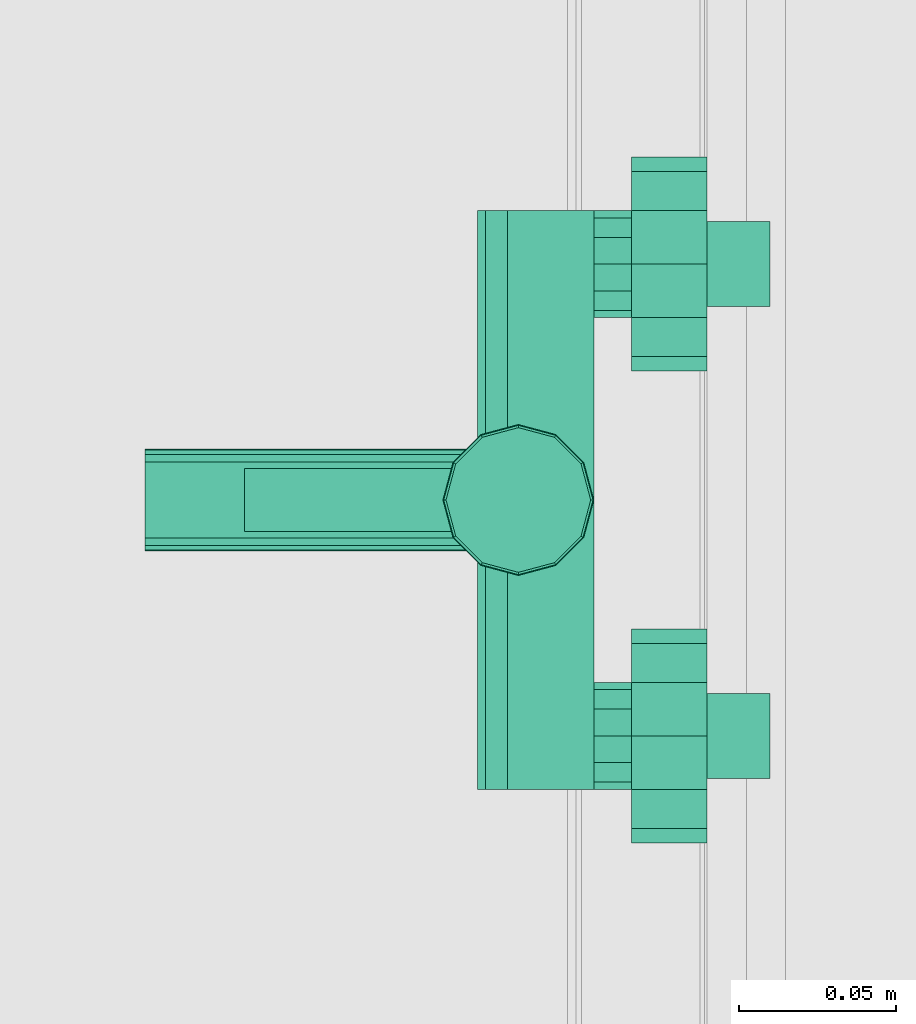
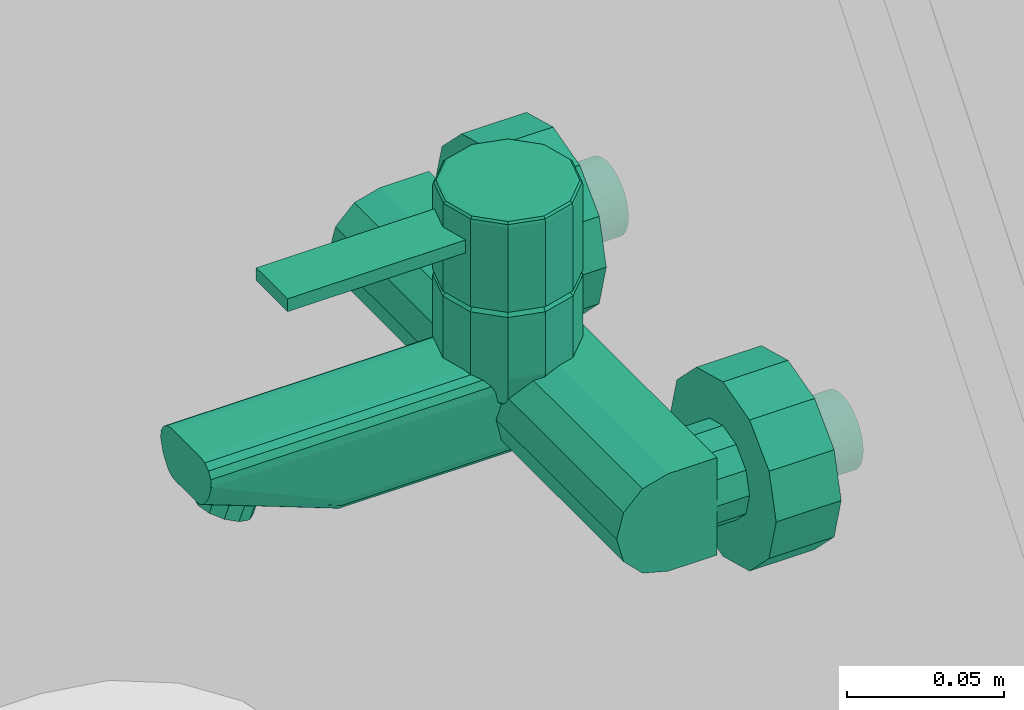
# One storey, part 111 of 137: 1 flow storage device.
"""IFC2X3 building model written with IfcOpenShell, lengths in millimetres."""

import ifcopenshell
import ifcopenshell.guid

model = None  # the IFC model being written
_history = None  # IfcOwnerHistory: only IFC2X3 demands one
_inside = {}  # id of a spatial element -> (the spatial element, [elements in it])
_under = {}  # id of a project, library or spatial element -> (it, [spatial elements below it])
_declared = {}  # id of a project -> (the project, [libraries it declares])
_typed = {}  # id of a type object -> (the type object, [elements of that type])
_made_of = {}  # id of a material, layer set ... -> (it, [elements and type objects made of it])


def new_model(schema):
    """Start an empty IFC model of exactly this schema.

    Asked for "IFC4X3", IfcOpenShell would pick the latest addendum, in which some entities
    have other attributes; the version numbers below select the first issue.
    IFC2X3 requires an IfcOwnerHistory on every rooted entity: one is made here for all.
    """
    global model, _history
    if schema == "IFC4X3":
        model = ifcopenshell.file(schema_version=(4, 3, 0, 0))
    else:
        model = ifcopenshell.file(schema=schema)
    _inside.clear()
    _under.clear()
    _declared.clear()
    _typed.clear()
    _made_of.clear()
    _history = None
    if model.schema == "IFC2X3":
        org = make("IfcOrganization", Name="unknown")
        user = make(
            "IfcPersonAndOrganization",
            ThePerson=make("IfcPerson", FamilyName="unknown"),
            TheOrganization=org,
        )
        app = make(
            "IfcApplication",
            ApplicationDeveloper=org,
            Version="unknown",
            ApplicationFullName="unknown",
            ApplicationIdentifier="unknown",
        )
        _history = make(
            "IfcOwnerHistory",
            OwningUser=user,
            OwningApplication=app,
            ChangeAction="ADDED",
            CreationDate=0,
        )
    return model


def make(cls, **values):
    """One entity of the class cls with the attributes given. An attribute that is None is left unset."""
    return model.create_entity(
        cls, **{name: value for name, value in values.items() if value is not None}
    )


def entity(cls, *values):
    """Any entity or typed value of the class cls, its attributes in the order of the schema. None: left unset."""
    e = model.create_entity(cls)
    for i, value in enumerate(values):
        if value is not None:
            e[i] = value
    return e


def rooted(cls, **values):
    """An entity with a GlobalId (a new one), such as an element, a storey or a relation."""
    return make(cls, GlobalId=ifcopenshell.guid.new(), OwnerHistory=_history, **values)


def si_unit(unit_type, name, prefix=None):
    """IfcSIUnit, for example si_unit("LENGTHUNIT", "METRE", prefix="MILLI")."""
    return make("IfcSIUnit", UnitType=unit_type, Prefix=prefix, Name=name)


def converted_unit(unit_type, name, factor, base, dimensions=None, offset=None):
    """IfcConversionBasedUnit, such as the inch: factor (a typed value) times the base unit."""
    return make(
        "IfcConversionBasedUnit"
        if offset is None
        else "IfcConversionBasedUnitWithOffset",
        ConversionOffset=offset,
        Dimensions=None
        if dimensions is None
        else entity("IfcDimensionalExponents", *dimensions),
        UnitType=unit_type,
        Name=name,
        ConversionFactor=make(
            "IfcMeasureWithUnit", ValueComponent=factor, UnitComponent=base
        ),
    )


def derived_unit(unit_type, elements):
    """IfcDerivedUnit: a product of units, each with its exponent."""
    return make(
        "IfcDerivedUnit",
        Elements=[
            make("IfcDerivedUnitElement", Unit=unit, Exponent=power)
            for unit, power in elements
        ],
        UnitType=unit_type,
    )


def money_unit(currency):
    """IfcMonetaryUnit."""
    return make("IfcMonetaryUnit", Currency=currency)


def assignment(units):
    """IfcUnitAssignment: the units of a project."""
    return None if units is None else make("IfcUnitAssignment", Units=units)


def point(xyz):
    """IfcCartesianPoint."""
    return None if xyz is None else make("IfcCartesianPoint", Coordinates=xyz)


def direction(xyz):
    """IfcDirection."""
    return None if xyz is None else make("IfcDirection", DirectionRatios=xyz)


def frame(location, z_axis=None, x_axis=None):
    """IfcAxis2Placement3D, a coordinate frame: its origin and axes. An axis left out is left unset."""
    return make(
        "IfcAxis2Placement3D",
        Location=point(location),
        Axis=direction(z_axis),
        RefDirection=direction(x_axis),
    )


def origin_with_axes():
    """The frame at (0, 0, 0) with the z axis (0, 0, 1) and the x axis (1, 0, 0) written out."""
    return frame((0.0, 0.0, 0.0), z_axis=(0.0, 0.0, 1.0), x_axis=(1.0, 0.0, 0.0))


def place(relative_to, where):
    """IfcLocalPlacement: puts the frame where relative to a parent placement (None: the world)."""
    return make(
        "IfcLocalPlacement", PlacementRelTo=relative_to, RelativePlacement=where
    )


def context(
    kind, dimensions, precision=None, world=None, true_north=None, identifier=None
):
    """IfcGeometricRepresentationContext, for example the 3D "Model" context."""
    return make(
        "IfcGeometricRepresentationContext",
        ContextIdentifier=identifier,
        ContextType=kind,
        CoordinateSpaceDimension=dimensions,
        Precision=precision,
        WorldCoordinateSystem=world,
        TrueNorth=true_north,
    )


def subcontext(parent, identifier, kind, view, scale=None):
    """IfcGeometricRepresentationSubContext, for example "Body" below "Model"."""
    return make(
        "IfcGeometricRepresentationSubContext",
        ContextIdentifier=identifier,
        ContextType=kind,
        ParentContext=parent,
        TargetScale=scale,
        TargetView=view,
    )


def project(units=None, contexts=None):
    """IfcProject with its units and contexts."""
    return rooted(
        "IfcProject",
        Name="project",
        RepresentationContexts=contexts,
        UnitsInContext=assignment(units),
    )


def spatial(cls, under=None, at=None, **own):
    """A site, building, storey or space (cls), placed at a placement, below another one or the project."""
    s = rooted(cls, ObjectPlacement=at, **own)
    if under is not None:
        _under.setdefault(under.id(), (under, []))[1].append(s)
    return s


def faces_of(points, faces, orient=None, outer=None):
    """IfcFace entities. A face is a list of loops; a loop is a list of indices into points, from 0.

    orient and outer hold one flag for each loop. By default every Orientation is true, the
    first loop of a face is its IfcFaceOuterBound and the others are IfcFaceBound.
    """
    made = []
    for i, loops in enumerate(faces):
        bounds = []
        for j, loop in enumerate(loops):
            is_outer = j == 0 if outer is None else outer[i][j]
            bounds.append(
                make(
                    "IfcFaceOuterBound" if is_outer else "IfcFaceBound",
                    Bound=make("IfcPolyLoop", Polygon=[points[k] for k in loop]),
                    Orientation=True if orient is None else orient[i][j],
                )
            )
        made.append(make("IfcFace", Bounds=bounds))
    return made


def open_shell(faces, orient=None, outer=None):
    """The faces of one IfcOpenShell. surface_model builds it on its shared points."""
    return ("IfcOpenShell", faces, orient, outer)


def faceted_brep(points, faces, orient=None, outer=None, voids=None):
    """IfcFacetedBrep: a solid bounded by flat faces; with voids (closed shells), ...WithVoids."""
    shared = [point(p) for p in points]
    hull = make("IfcClosedShell", CfsFaces=faces_of(shared, faces, orient, outer))
    if voids is None:
        return make("IfcFacetedBrep", Outer=hull)
    return make(
        "IfcFacetedBrepWithVoids",
        Outer=hull,
        Voids=[
            make(cls, CfsFaces=faces_of(shared, fs, o, b)) for cls, fs, o, b in voids
        ],
    )


def surface_model(cls, points, shells):
    """IfcFaceBasedSurfaceModel or IfcShellBasedSurfaceModel (cls): surfaces that need not close."""
    shared = [point(p) for p in points]
    made = [make(c, CfsFaces=faces_of(shared, fs, o, b)) for c, fs, o, b in shells]
    if cls == "IfcFaceBasedSurfaceModel":
        return make(cls, FbsmFaces=made)
    return make(cls, SbsmBoundary=made)


def shape(context_of_items, identifier, shape_type, items):
    """IfcShapeRepresentation: the items that make up one representation, for example the "Body"."""
    return make(
        "IfcShapeRepresentation",
        ContextOfItems=context_of_items,
        RepresentationIdentifier=identifier,
        RepresentationType=shape_type,
        Items=items,
    )


def source(mapping_origin, context_of_items, identifier, shape_type, items):
    """IfcRepresentationMap: a shape defined once, which mapped items show again and again."""
    return make(
        "IfcRepresentationMap",
        MappingOrigin=mapping_origin,
        MappedRepresentation=shape(context_of_items, identifier, shape_type, items),
    )


def transform(
    local_origin,
    x_axis=None,
    y_axis=None,
    z_axis=None,
    scale=None,
    scale2=None,
    scale3=None,
    uniform=True,
):
    """IfcCartesianTransformationOperator3D, or its non-uniform kind. x_axis, y_axis, z_axis: its Axis1, 2, 3."""
    if uniform:
        return make(
            "IfcCartesianTransformationOperator3D",
            Axis1=direction(x_axis),
            Axis2=direction(y_axis),
            LocalOrigin=point(local_origin),
            Scale=scale,
            Axis3=direction(z_axis),
        )
    return make(
        "IfcCartesianTransformationOperator3DnonUniform",
        Axis1=direction(x_axis),
        Axis2=direction(y_axis),
        LocalOrigin=point(local_origin),
        Scale=scale,
        Axis3=direction(z_axis),
        Scale2=scale2,
        Scale3=scale3,
    )


def mapped(mapping_source, mapping_target):
    """IfcMappedItem: shows the shape of a source again, moved by a transform."""
    return make(
        "IfcMappedItem", MappingSource=mapping_source, MappingTarget=mapping_target
    )


def made_of(thing, what):
    """Note that an element or type object is made of a material, layer set ...; save() writes the relation."""
    if what is not None:
        _made_of.setdefault(what.id(), (what, []))[1].append(thing)
    return thing


def type_object(cls, material=None, **own):
    """A type object (cls), such as IfcWallType, which elements share."""
    return made_of(rooted(cls, **own), material)


def type_shapes(of_type, sources):
    """Give a type object the sources (RepresentationMaps) that its elements show as mapped items."""
    of_type.RepresentationMaps = sources


def element(
    cls,
    number,
    at=None,
    inside=None,
    cuts=None,
    type_object=None,
    material=None,
    context=None,
    identifier="Body",
    shape_type=None,
    held_by="IfcProductDefinitionShape",
    body=None,
    shapes=None,
    **own,
):
    """One element of the class cls, such as IfcWall. Its Tag is "e" and its number.

    at: its placement. inside: the storey or other place that contains it. cuts: it is an
    opening in that element (IfcRelVoidsElement). A single representation is given by context,
    identifier, shape_type and body (its items); several are given by shapes. held_by: the class
    of the entity that holds the representations. save() writes the other relations.
    """
    e = rooted(cls, Tag="e%d" % number, ObjectPlacement=at, **own)
    if body is not None:
        shapes = [shape(context, identifier, shape_type, body)]
    if shapes is not None:
        e.Representation = make(held_by, Representations=shapes)
    if inside is not None:
        _inside.setdefault(inside.id(), (inside, []))[1].append(e)
    if cuts is not None:
        rooted(
            "IfcRelVoidsElement", RelatingBuildingElement=cuts, RelatedOpeningElement=e
        )
    if type_object is not None:
        _typed.setdefault(type_object.id(), (type_object, []))[1].append(e)
    return made_of(e, material)


def aggregate(whole, parts):
    """IfcRelAggregates: a whole, such as a stair, and the parts it consists of."""
    return rooted("IfcRelAggregates", RelatingObject=whole, RelatedObjects=parts)


def save(model, path):
    """Write the relations noted so far, then the file.

    IfcRelAggregates (storeys below a building ...), IfcRelContainedInSpatialStructure (elements
    in a storey), IfcRelDefinesByType, IfcRelAssociatesMaterial and IfcRelDeclares: one each for
    every whole, place, type object, material and project.
    """
    for whole, parts in _under.values():
        aggregate(whole, parts)
    for where, things in _inside.values():
        rooted(
            "IfcRelContainedInSpatialStructure",
            RelatedElements=things,
            RelatingStructure=where,
        )
    for kind, things in _typed.values():
        rooted("IfcRelDefinesByType", RelatedObjects=things, RelatingType=kind)
    for what, things in _made_of.values():
        rooted("IfcRelAssociatesMaterial", RelatedObjects=things, RelatingMaterial=what)
    for by, libraries in _declared.values():
        rooted("IfcRelDeclares", RelatingContext=by, RelatedDefinitions=libraries)
    model.write(path)


model = new_model("IFC2X3")

# Units and contexts
model_context = context("Model", 3, precision=0.01, world=origin_with_axes(), true_north=direction((0.0, 1.0)))
body_context = subcontext(model_context, "Body", "Model", "MODEL_VIEW")
ifc_project = project(units=[si_unit("LENGTHUNIT", "METRE", prefix="MILLI"), si_unit("AREAUNIT", "SQUARE_METRE"), si_unit("VOLUMEUNIT", "CUBIC_METRE"), converted_unit("PLANEANGLEUNIT", "DEGREE", entity("IfcPlaneAngleMeasure", 0.0174532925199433), si_unit("PLANEANGLEUNIT", "RADIAN"), dimensions=[0, 0, 0, 0, 0, 0, 0]), money_unit("EUR"), converted_unit("TIMEUNIT", "Year", entity("IfcTimeMeasure", 31556926.0), si_unit("TIMEUNIT", "SECOND"), dimensions=[0, 0, 1, 0, 0, 0, 0]), si_unit("MASSUNIT", "GRAM", prefix="KILO"), si_unit("THERMODYNAMICTEMPERATUREUNIT", "DEGREE_CELSIUS"), si_unit("LUMINOUSINTENSITYUNIT", "LUMEN"), si_unit("ENERGYUNIT", "JOULE", prefix="MEGA"), derived_unit("THERMALCONDUCTANCEUNIT", [(si_unit("POWERUNIT", "WATT"), 1), (si_unit("LENGTHUNIT", "METRE"), -1), (si_unit("THERMODYNAMICTEMPERATUREUNIT", "KELVIN"), -1)]), derived_unit("SPECIFICHEATCAPACITYUNIT", [(si_unit("ENERGYUNIT", "JOULE"), 1), (si_unit("MASSUNIT", "GRAM", prefix="KILO"), -1), (si_unit("THERMODYNAMICTEMPERATUREUNIT", "KELVIN"), -1)]), derived_unit("MASSDENSITYUNIT", [(si_unit("MASSUNIT", "GRAM", prefix="KILO"), 1), (si_unit("VOLUMEUNIT", "CUBIC_METRE"), -1)])], contexts=[model_context])

# Site, building, storey
site_placement = place(None, origin_with_axes())
site = spatial("IfcSite", under=ifc_project, at=site_placement, Name="Site", CompositionType="ELEMENT")
building_placement = place(site_placement, origin_with_axes())
building = spatial("IfcBuilding", under=site, at=building_placement, Name="Naam gebouw", CompositionType="ELEMENT")
storey_placement = place(building_placement, frame((0.0, 0.0, 3960.0), z_axis=(0.0, 0.0, 1.0), x_axis=(1.0, 0.0, 0.0)))
storey = spatial("IfcBuildingStorey", under=building, at=storey_placement, Name="1e verdieping", CompositionType="ELEMENT", Elevation=3960.0)

# Flow storage device
tank_type = type_object("IfcTankType", Name="Kraan wand 26", PredefinedType="EXPANSION")
shared_shape = source(origin_with_axes(), body_context, "Body", "SurfaceModel", [
    faceted_brep([(-45.55513627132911, 0.0, 1183.0), (-58.00000000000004, 0.0, 1170.555136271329), (-75.00000000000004, 0.0, 1166.0), (-92.00000000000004, 0.0, 1170.555136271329), (-104.4448637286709, 0.0, 1183.0), (-109.0, 0.0, 1200.0), (-104.4448637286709, 0.0, 1217.0), (-92.0, 0.0, 1229.444863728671), (-75.0, 0.0, 1234.0), (-58.0, 0.0, 1229.444863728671), (-45.5551362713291, 0.0, 1217.0), (-41.00000000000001, 0.0, 1200.0), (-45.55513627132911, -24.0, 1183.0), (-58.00000000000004, -24.0, 1170.555136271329), (-75.00000000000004, -24.0, 1166.0), (-92.00000000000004, -24.0, 1170.555136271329), (-104.4448637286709, -24.0, 1183.0), (-109.0, -24.0, 1200.0), (-104.4448637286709, -24.0, 1217.0), (-92.0, -24.0, 1229.444863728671), (-75.0, -24.0, 1234.0), (-58.0, -24.0, 1229.444863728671), (-45.5551362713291, -24.0, 1217.0), (-41.00000000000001, -24.0, 1200.0)], [[[0, 1, 2, 3, 4, 5, 6, 7, 8, 9, 10, 11]], [[1, 0, 12, 13]], [[2, 1, 13, 14]], [[3, 2, 14, 15]], [[4, 3, 15, 16]], [[5, 4, 16, 17]], [[6, 5, 17, 18]], [[7, 6, 18, 19]], [[8, 7, 19, 20]], [[9, 8, 20, 21]], [[10, 9, 21, 22]], [[11, 10, 22, 23]], [[0, 11, 23, 12]], [[12, 23, 22, 21, 20, 19, 18, 17, 16, 15, 14, 13]]]),
    faceted_brep([(-60.27756813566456, -24.0, 1191.5), (-66.50000000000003, -24.0, 1185.277568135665), (-75.00000000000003, -24.0, 1183.0), (-83.50000000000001, -24.0, 1185.277568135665), (-89.72243186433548, -24.0, 1191.5), (-92.00000000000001, -24.0, 1200.0), (-89.72243186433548, -24.0, 1208.5), (-83.5, -24.0, 1214.722431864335), (-75.00000000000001, -24.0, 1217.0), (-66.5, -24.0, 1214.722431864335), (-60.27756813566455, -24.0, 1208.5), (-58.00000000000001, -24.0, 1200.0), (-60.27756813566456, -36.00000000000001, 1191.5), (-66.50000000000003, -36.00000000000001, 1185.277568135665), (-75.00000000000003, -36.00000000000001, 1183.0), (-83.50000000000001, -36.00000000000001, 1185.277568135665), (-89.72243186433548, -36.00000000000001, 1191.5), (-92.00000000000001, -36.00000000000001, 1200.0), (-89.72243186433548, -36.00000000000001, 1208.5), (-83.5, -36.0, 1214.722431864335), (-75.00000000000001, -36.0, 1217.0), (-66.5, -36.0, 1214.722431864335), (-60.27756813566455, -36.00000000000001, 1208.5), (-58.00000000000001, -36.00000000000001, 1200.0)], [[[0, 1, 2, 3, 4, 5, 6, 7, 8, 9, 10, 11]], [[1, 0, 12, 13]], [[2, 1, 13, 14]], [[3, 2, 14, 15]], [[4, 3, 15, 16]], [[5, 4, 16, 17]], [[6, 5, 17, 18]], [[7, 6, 18, 19]], [[8, 7, 19, 20]], [[9, 8, 20, 21]], [[10, 9, 21, 22]], [[11, 10, 22, 23]], [[0, 11, 23, 12]], [[12, 23, 22, 21, 20, 19, 18, 17, 16, 15, 14, 13]]]),
    faceted_brep([(45.55513627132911, 0.0, 1183.0), (41.00000000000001, 0.0, 1200.0), (45.5551362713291, 0.0, 1217.0), (58.0, 0.0, 1229.444863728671), (75.0, 0.0, 1234.0), (92.0, 0.0, 1229.444863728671), (104.4448637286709, 0.0, 1217.0), (109.0, 0.0, 1200.0), (104.4448637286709, 0.0, 1183.0), (92.00000000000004, 0.0, 1170.555136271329), (75.00000000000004, 0.0, 1166.0), (58.00000000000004, 0.0, 1170.555136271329), (45.55513627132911, -24.0, 1183.0), (41.00000000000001, -24.0, 1200.0), (45.5551362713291, -24.0, 1217.0), (58.0, -24.0, 1229.444863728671), (75.0, -24.0, 1234.0), (92.0, -24.0, 1229.444863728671), (104.4448637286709, -24.0, 1217.0), (109.0, -24.0, 1200.0), (104.4448637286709, -24.0, 1183.0), (92.00000000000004, -24.0, 1170.555136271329), (75.00000000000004, -24.0, 1166.0), (58.00000000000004, -24.0, 1170.555136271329)], [[[0, 1, 2, 3, 4, 5, 6, 7, 8, 9, 10, 11]], [[0, 12, 13, 1]], [[1, 13, 14, 2]], [[2, 14, 15, 3]], [[3, 15, 16, 4]], [[4, 16, 17, 5]], [[5, 17, 18, 6]], [[6, 18, 19, 7]], [[7, 19, 20, 8]], [[8, 20, 21, 9]], [[9, 21, 22, 10]], [[10, 22, 23, 11]], [[11, 23, 12, 0]], [[12, 23, 22, 21, 20, 19, 18, 17, 16, 15, 14, 13]]]),
    faceted_brep([(60.27756813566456, -24.0, 1191.5), (58.00000000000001, -24.0, 1200.0), (60.27756813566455, -24.0, 1208.5), (66.5, -24.0, 1214.722431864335), (75.00000000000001, -24.0, 1217.0), (83.5, -24.0, 1214.722431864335), (89.72243186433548, -24.0, 1208.5), (92.00000000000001, -24.0, 1200.0), (89.72243186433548, -24.0, 1191.5), (83.50000000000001, -24.0, 1185.277568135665), (75.00000000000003, -24.0, 1183.0), (66.50000000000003, -24.0, 1185.277568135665), (60.27756813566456, -36.00000000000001, 1191.5), (58.00000000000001, -36.00000000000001, 1200.0), (60.27756813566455, -36.00000000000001, 1208.5), (66.5, -36.0, 1214.722431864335), (75.00000000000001, -36.0, 1217.0), (83.5, -36.0, 1214.722431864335), (89.72243186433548, -36.00000000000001, 1208.5), (92.00000000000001, -36.00000000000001, 1200.0), (89.72243186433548, -36.00000000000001, 1191.5), (83.50000000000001, -36.00000000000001, 1185.277568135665), (75.00000000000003, -36.00000000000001, 1183.0), (66.50000000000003, -36.00000000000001, 1185.277568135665)], [[[0, 1, 2, 3, 4, 5, 6, 7, 8, 9, 10, 11]], [[0, 12, 13, 1]], [[1, 13, 14, 2]], [[2, 14, 15, 3]], [[3, 15, 16, 4]], [[4, 16, 17, 5]], [[5, 17, 18, 6]], [[6, 18, 19, 7]], [[7, 19, 20, 8]], [[8, 20, 21, 9]], [[9, 21, 22, 10]], [[10, 22, 23, 11]], [[11, 23, 12, 0]], [[12, 23, 22, 21, 20, 19, 18, 17, 16, 15, 14, 13]]]),
    faceted_brep([(22.39230484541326, -54.0, 1219.0), (23.56921938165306, -59.99999999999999, 1217.392304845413), (22.3801085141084, -63.5, 1216.454482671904), (92.0, -63.5, 1216.454482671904), (92.0, -54.0, 1219.0), (24.0, -59.99999999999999, 1219.0), (20.78460969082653, -72.0, 1219.0), (18.42264973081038, -70.63632178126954, 1208.821367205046), (18.65321248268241, -70.45448267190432, 1209.5), (92.0, -70.45448267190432, 1209.5), (92.0, -36.00000000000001, 1181.0), (92.0, -36.00000000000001, 1219.0), (92.0, -73.00000000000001, 1200.0), (92.0, -70.45448267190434, 1190.5), (92.0, -63.5, 1183.545517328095), (92.0, -54.00000000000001, 1181.0), (20.78460969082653, -47.99999999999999, 1219.0), (0.0, -36.00000000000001, 1219.0), (12.0, -39.21539030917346, 1219.0), (20.78460969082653, -47.99999999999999, 1243.0), (24.0, -59.99999999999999, 1243.0), (20.78460969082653, -72.0, 1243.0), (17.26794919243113, -71.12435565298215, 1207.0), (12.00000000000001, -80.78460969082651, 1219.0), (11.92314238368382, -80.65148839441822, 1218.426326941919), (12.07189135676, -80.49116546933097, 1218.39470631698), (14.42686544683, -77.50984837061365, 1216.68350539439), (15.88213414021, -75.13176694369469, 1214.16233412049), (16.18602173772, -73.76818909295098, 1211.26720650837), (15.73684210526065, -72.65546274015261, 1207.0), (15.6314139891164, -71.39272474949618, 1205.998432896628), (14.99999999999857, -73.00000000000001, 1200.0), (-92.0, -36.00000000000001, 1181.0), (-92.0, -36.00000000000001, 1219.0), (14.00000000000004, -70.45448267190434, 1190.5), (12.93483876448, -64.77581392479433, 1184.82133125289), (11.95567316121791, -63.5, 1183.545517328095), (13.65970594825, -67.22168918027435, 1187.26720650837), (9.206486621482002, -55.73480068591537, 1181.46483844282), (6.698167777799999, -54.00000000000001, 1181.0), (11.38167317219, -60.70880215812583, 1182.79761812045), (-6.698167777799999, -54.00000000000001, 1181.0), (-92.0, -54.00000000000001, 1181.0), (6.698167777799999, -128.7, 1181.0), (-6.698167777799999, -128.7, 1181.0), (0.0, -36.00000000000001, 1243.0), (12.0, -39.21539030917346, 1243.0), (19.05255888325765, -48.99999999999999, 1245.0), (22.0, -59.99999999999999, 1245.0), (19.05255888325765, -71.0, 1245.0), (12.00000000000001, -80.78460969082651, 1243.0), (9.224483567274, -81.52830707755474, 1219.0), (9.224483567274, -178.7, 1219.0), (12.07189135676, -178.7, 1218.39470631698), (14.42686544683, -178.7, 1216.68350539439), (15.88213414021, -178.7, 1214.16233412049), (16.18602173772, -178.7, 1211.26720650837), (13.65970594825, -128.7, 1187.26720650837), (-92.0, -54.0, 1219.0), (-92.0, -63.5, 1183.545517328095), (-92.0, -70.45448267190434, 1190.5), (-92.0, -73.00000000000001, 1200.0), (-92.0, -70.45448267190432, 1209.5), (-92.0, -63.5, 1216.454482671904), (-12.00000000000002, -39.21539030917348, 1219.0), (-22.39230484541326, -54.0, 1219.0), (-20.78460969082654, -48.00000000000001, 1219.0), (12.93483876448, -128.7, 1184.82133125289), (11.38167317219, -128.7, 1182.79761812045), (9.206486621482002, -128.7, 1181.46483844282), (-11.38167317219, -60.70880215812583, 1182.79761812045), (-11.95567316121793, -63.5, 1183.545517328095), (-9.206486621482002, -55.73480068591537, 1181.46483844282), (-6.698167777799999, -156.6122297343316, 1191.606647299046), (6.698167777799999, -156.6122297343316, 1191.606647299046), (5.000000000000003, -155.02481037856, 1191.003427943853), (0.0, -153.7724378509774, 1190.527526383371), (-4.999999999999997, -155.02481037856, 1191.003427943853), (-9.206486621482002, -128.7, 1181.46483844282), (-12.00000000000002, -39.21539030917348, 1243.0), (0.0, -38.00000000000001, 1245.0), (11.0, -40.94744111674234, 1245.0), (-20.78460969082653, -47.99999999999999, 1245.0), (-12.0, -39.21539030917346, 1245.0), (0.0, -36.00000000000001, 1245.0), (12.00000000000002, -39.21539030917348, 1245.0), (20.78460969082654, -48.00000000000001, 1245.0), (24.0, -60.00000000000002, 1245.0), (20.78460969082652, -72.00000000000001, 1245.0), (11.99999999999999, -80.78460969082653, 1245.0), (0.0, -83.99999999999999, 1245.0), (-12.00000000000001, -80.78460969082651, 1245.0), (-20.78460969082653, -72.0, 1245.0), (-24.0, -59.99999999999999, 1245.0), (11.00000000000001, -79.05255888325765, 1245.0), (-11.00000000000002, -40.94744111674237, 1245.0), (-19.05255888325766, -49.00000000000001, 1245.0), (-22.0, -60.00000000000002, 1245.0), (-19.05255888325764, -71.00000000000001, 1245.0), (-10.99999999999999, -79.05255888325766, 1245.0), (0.0, -81.99999999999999, 1245.0), (0.0, -83.99999999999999, 1243.0), (0.0, -83.99999999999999, 1219.0), (-15.88213414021, -178.7, 1214.16233412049), (-16.18602173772, -178.7, 1211.26720650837), (-14.65970594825, -178.7, 1206.26720650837), (-12.93483876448, -178.7, 1203.82133125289), (-11.38167317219, -178.7, 1201.79761812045), (-9.206486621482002, -178.7, 1200.46483844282), (-6.698167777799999, -178.7, 1200.0), (6.698167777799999, -178.7, 1200.0), (9.206486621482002, -178.7, 1200.46483844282), (11.38167317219, -178.7, 1201.79761812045), (12.93483876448, -178.7, 1203.82133125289), (14.65970594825, -178.7, 1206.26720650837), (-9.224483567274, -178.7, 1219.0), (-12.07189135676, -178.7, 1218.39470631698), (-14.42686544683, -178.7, 1216.68350539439), (-9.224483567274, -81.52830707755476, 1219.0), (-13.65970594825, -67.22168918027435, 1187.26720650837), (-14.00000000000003, -70.45448267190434, 1190.5), (-12.93483876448, -64.77581392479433, 1184.82133125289), (-14.99999999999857, -73.00000000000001, 1200.0), (-18.42264973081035, -70.63632178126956, 1208.821367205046), (-18.65321248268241, -70.45448267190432, 1209.5), (-15.63141398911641, -71.39272474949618, 1205.998432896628), (-17.26794919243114, -71.12435565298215, 1207.0), (-22.38010851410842, -63.5, 1216.454482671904), (-23.56921938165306, -60.00000000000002, 1217.392304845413), (-24.0, -60.00000000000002, 1219.0), (-24.0, -60.00000000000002, 1243.0), (-20.78460969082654, -48.00000000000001, 1243.0), (9.206486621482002, -160.1976250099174, 1193.433935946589), (8.660254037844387, -158.3256179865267, 1192.621346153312), (9.206486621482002, -165.7342214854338, 1195.537842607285), (10.0, -162.8044792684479, 1194.910741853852), (-11.38167317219, -128.7, 1182.79761812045), (-12.93483876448, -128.7, 1184.82133125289), (-9.206486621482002, -160.1976250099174, 1193.433935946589), (-8.660254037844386, -158.3256179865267, 1192.621346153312), (8.660254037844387, -160.222444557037, 1187.629697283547), (5.000000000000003, -156.8008991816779, 1186.329510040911), (0.0, -155.5485266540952, 1185.85360848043), (-4.999999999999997, -156.8008991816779, 1186.329510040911), (-8.660254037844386, -160.222444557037, 1187.629697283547), (-20.78460969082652, -47.99999999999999, 1278.0), (-12.0, -39.21539030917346, 1278.0), (0.0, -36.00000000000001, 1278.0), (12.00000000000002, -39.21539030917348, 1278.0), (20.78460969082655, -48.00000000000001, 1278.0), (24.0, -60.00000000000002, 1278.0), (20.78460969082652, -72.00000000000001, 1278.0), (11.99999999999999, -80.78460969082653, 1278.0), (0.0, -83.99999999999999, 1278.0), (0.0, -83.99999999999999, 1270.0), (10.0, -81.32050807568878, 1270.0), (10.0, -81.32050807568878, 1265.0), (0.0, -83.99999999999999, 1265.0), (-10.0, -81.32050807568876, 1265.0), (-10.0, -81.32050807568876, 1270.0), (-12.00000000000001, -80.78460969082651, 1278.0), (-20.78460969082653, -72.0, 1278.0), (-24.0, -59.99999999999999, 1278.0), (-20.78460969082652, -72.00000000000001, 1243.0), (-11.99999999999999, -80.78460969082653, 1243.0), (-11.99999999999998, -80.78460969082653, 1219.0), (-15.88213414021, -75.1317669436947, 1214.16233412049), (-16.18602173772, -73.76818909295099, 1211.26720650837), (-16.18602173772, -128.7, 1211.26720650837), (-13.65970594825, -128.7, 1187.26720650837), (-10.0, -162.8044792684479, 1194.910741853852), (-9.206486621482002, -165.7342214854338, 1195.537842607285), (-8.66025403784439, -167.6734537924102, 1196.173523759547), (-6.698167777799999, -169.6283175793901, 1196.552760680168), (0.0, -172.4681094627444, 1197.631881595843), (4.999999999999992, -171.2157369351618, 1197.155980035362), (6.698167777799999, -169.6283175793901, 1196.552760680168), (-5.000000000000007, -171.2157369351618, 1197.155980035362), (8.660254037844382, -167.6734537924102, 1196.173523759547), (-11.92314238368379, -80.65148839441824, 1218.426326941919), (-12.07189135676, -80.49116546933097, 1218.39470631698), (-14.42686544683, -77.50984837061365, 1216.68350539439), (-15.73684210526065, -72.65546274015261, 1207.0), (-20.78460969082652, -72.00000000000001, 1219.0), (10.0, -164.8963624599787, 1189.405786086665), (8.660254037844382, -169.5702803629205, 1191.181874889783), (-10.0, -164.8963624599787, 1189.405786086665), (4.999999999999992, -172.9918257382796, 1192.48206213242), (0.0, -174.2441982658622, 1192.957963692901), (-5.000000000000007, -172.9918257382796, 1192.48206213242), (-8.66025403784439, -169.5702803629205, 1191.181874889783), (-20.55255888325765, -48.13397459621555, 1279.0), (-11.86602540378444, -39.44744111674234, 1279.0), (0.0, -36.26794919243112, 1279.0), (11.86602540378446, -39.44744111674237, 1279.0), (20.55255888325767, -48.13397459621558, 1279.0), (23.73205080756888, -60.00000000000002, 1279.0), (20.55255888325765, -71.86602540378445, 1279.0), (11.86602540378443, -80.55255888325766, 1279.0), (10.0, -147.0, 1270.0), (-10.0, -147.0, 1270.0), (10.0, -147.0, 1265.0), (-10.0, -147.0, 1265.0), (0.0, -83.73205080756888, 1279.0), (-11.86602540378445, -80.55255888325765, 1279.0), (-20.55255888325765, -71.86602540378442, 1279.0), (-23.73205080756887, -59.99999999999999, 1279.0), (-19.91858428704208, -48.49999999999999, 1279.732050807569), (-11.5, -40.08141571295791, 1279.732050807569), (0.0, -37.00000000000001, 1279.732050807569), (11.50000000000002, -40.08141571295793, 1279.732050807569), (19.9185842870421, -48.50000000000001, 1279.732050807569), (23.0, -60.00000000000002, 1279.732050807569), (19.91858428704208, -71.50000000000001, 1279.732050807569), (11.49999999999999, -79.9185842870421, 1279.732050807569), (0.0, -82.99999999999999, 1279.732050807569), (-11.50000000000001, -79.91858428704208, 1279.732050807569), (-19.91858428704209, -71.5, 1279.732050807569), (-23.0, -59.99999999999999, 1279.732050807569), (-19.05255888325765, -48.99999999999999, 1280.0), (-11.0, -40.94744111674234, 1280.0), (0.0, -38.00000000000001, 1280.0), (11.00000000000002, -40.94744111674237, 1280.0), (19.05255888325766, -49.00000000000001, 1280.0), (22.0, -60.00000000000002, 1280.0), (19.05255888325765, -71.00000000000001, 1280.0), (10.99999999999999, -79.05255888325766, 1280.0), (0.0, -81.99999999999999, 1280.0), (-11.00000000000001, -79.05255888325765, 1280.0), (-19.05255888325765, -71.0, 1280.0), (-22.0, -59.99999999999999, 1280.0), (0.0, -60.0, 1280.0)], [[[0, 1, 2, 3, 4]], [[1, 0, 5]], [[2, 1, 5, 6, 7, 8]], [[2, 8, 9, 3]], [[10, 11, 4, 3, 9, 12, 13, 14, 15]], [[16, 0, 4, 11, 17, 18]], [[0, 16, 19, 20, 5]], [[20, 21, 6, 5]], [[22, 7, 6, 23, 24, 25, 26, 27, 28, 29]], [[30, 31, 12, 9, 8, 7, 22]], [[10, 32, 33, 17, 11]], [[31, 34, 13, 12]], [[35, 36, 14, 13, 34, 37]], [[38, 39, 15, 14, 36, 40]], [[41, 42, 32, 10, 15, 39, 43, 44]], [[18, 17, 45, 46]], [[16, 18, 46, 19]], [[19, 47, 48, 20]], [[20, 48, 49, 21]], [[21, 50, 23, 6]], [[23, 51, 24]], [[52, 53, 25, 24, 51]], [[53, 54, 26, 25]], [[54, 55, 27, 26]], [[56, 28, 27, 55]], [[31, 30, 29, 28, 56, 57, 37, 34]], [[30, 22, 29]], [[58, 33, 32, 42, 59, 60, 61, 62, 63]], [[64, 17, 33, 58, 65, 66]], [[36, 35, 67, 68, 40]], [[35, 37, 57, 67]], [[39, 38, 69, 43]], [[38, 40, 68, 69]], [[70, 71, 59, 42, 41, 72]], [[73, 44, 43, 74, 75, 76, 77]], [[72, 41, 44, 78]], [[17, 64, 79, 45]], [[45, 80, 81, 46]], [[46, 81, 47, 19]], [[82, 83, 84, 85, 86, 87, 88, 89, 90, 91, 92, 93], [94, 49, 48, 47, 81, 80, 95, 96, 97, 98, 99, 100]], [[21, 49, 94, 50]], [[101, 102, 51, 23, 50]], [[103, 104, 105, 106, 107, 108, 109, 110, 111, 112, 113, 114, 56, 55, 54, 53, 52, 115, 116, 117]], [[115, 52, 51, 102, 118]], [[56, 114, 57]], [[119, 120, 60, 59, 71, 121]], [[120, 122, 61, 60]], [[123, 124, 62, 61, 122, 125, 126]], [[124, 127, 63, 62]], [[128, 65, 58, 63, 127]], [[66, 65, 129, 130, 131]], [[64, 66, 131, 79]], [[112, 68, 67, 113]], [[114, 67, 57]], [[74, 43, 69, 132, 133]], [[132, 69, 68, 112, 111, 134, 135]], [[71, 70, 136, 137, 121]], [[70, 72, 78, 136]], [[138, 78, 44, 73, 139]], [[75, 74, 133, 140, 141]], [[142, 76, 75, 141]], [[143, 77, 76, 142]], [[139, 73, 77, 143, 144]], [[79, 95, 80, 45]], [[83, 82, 145, 146]], [[84, 83, 146, 147]], [[85, 84, 147, 148]], [[86, 85, 148, 149]], [[87, 86, 149, 150]], [[88, 87, 150, 151]], [[89, 88, 151, 152]], [[153, 154, 155, 156, 157, 90, 89, 152]], [[158, 159, 154, 153, 160, 91, 90, 157]], [[92, 91, 160, 161]], [[93, 92, 161, 162]], [[82, 93, 162, 145]], [[131, 96, 95, 79]], [[130, 97, 96, 131]], [[163, 98, 97, 130]], [[164, 99, 98, 163]], [[101, 100, 99, 164]], [[50, 94, 100, 101]], [[165, 118, 102, 101, 164]], [[104, 103, 166, 167, 168]], [[105, 104, 168]], [[106, 105, 169]], [[106, 137, 136, 107]], [[107, 136, 78, 138, 170, 171, 108]], [[171, 172, 173, 109, 108]], [[174, 175, 176, 110, 109, 173, 177]], [[176, 178, 134, 111, 110]], [[114, 113, 67]], [[116, 115, 118, 179, 180]], [[117, 116, 180, 181]], [[103, 117, 181, 166]], [[120, 119, 169, 168, 167, 182, 125, 122]], [[119, 121, 137, 169]], [[124, 123, 183, 129, 128, 127]], [[126, 125, 182]], [[123, 126, 182, 167, 166, 181, 180, 179, 165, 183]], [[65, 128, 129]], [[163, 130, 129, 183]], [[133, 132, 135, 184, 140]], [[135, 134, 178, 185, 184]], [[170, 138, 139, 144, 186]], [[140, 184, 185, 187, 188, 189, 190, 186, 144, 143, 142, 141]], [[146, 145, 191, 192]], [[147, 146, 192, 193]], [[148, 147, 193, 194]], [[149, 148, 194, 195]], [[150, 149, 195, 196]], [[151, 150, 196, 197]], [[152, 151, 197, 198]], [[199, 155, 154, 159, 200]], [[201, 156, 155, 199]], [[158, 157, 156, 201, 202]], [[153, 152, 198, 203]], [[200, 159, 158, 202]], [[160, 153, 203, 204]], [[161, 160, 204, 205]], [[162, 161, 205, 206]], [[145, 162, 206, 191]], [[164, 163, 183, 165]], [[165, 179, 118]], [[105, 168, 169]], [[106, 169, 137]], [[172, 171, 170, 186, 190]], [[177, 173, 172, 190, 189]], [[187, 175, 174, 188]], [[178, 176, 175, 187, 185]], [[188, 174, 177, 189]], [[192, 191, 207, 208]], [[193, 192, 208, 209]], [[194, 193, 209, 210]], [[195, 194, 210, 211]], [[196, 195, 211, 212]], [[197, 196, 212, 213]], [[198, 197, 213, 214]], [[199, 200, 202, 201]], [[203, 198, 214, 215]], [[204, 203, 215, 216]], [[205, 204, 216, 217]], [[206, 205, 217, 218]], [[191, 206, 218, 207]], [[208, 207, 219, 220]], [[209, 208, 220, 221]], [[210, 209, 221, 222]], [[211, 210, 222, 223]], [[212, 211, 223, 224]], [[213, 212, 224, 225]], [[214, 213, 225, 226]], [[215, 214, 226, 227]], [[216, 215, 227, 228]], [[217, 216, 228, 229]], [[218, 217, 229, 230]], [[207, 218, 230, 219]], [[220, 219, 231]], [[221, 220, 231]], [[222, 221, 231]], [[223, 222, 231]], [[224, 223, 231]], [[225, 224, 231]], [[226, 225, 231]], [[227, 226, 231]], [[228, 227, 231]], [[229, 228, 231]], [[230, 229, 231]], [[219, 230, 231]]]),
    surface_model("IfcShellBasedSurfaceModel", [(-75.0, 0.0, 1186.5), (-77.34425039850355, 0.0, 1186.705095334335), (-77.34425039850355, 20.0, 1186.705095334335), (-75.0, 20.0, 1186.5), (-79.61727193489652, 0.0, 1187.31414961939), (-79.61727193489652, 20.0, 1187.31414961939), (-72.65574960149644, 0.0, 1186.705095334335), (-72.65574960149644, 20.0, 1186.705095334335), (-81.74999999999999, 0.0, 1188.30865704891), (-81.74999999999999, 20.0, 1188.30865704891), (-70.38272806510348, 0.0, 1187.31414961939), (-70.38272806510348, 20.0, 1187.31414961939), (-83.67763273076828, 0.0, 1189.658400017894), (-83.67763273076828, 20.0, 1189.658400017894), (-68.25, 0.0, 1188.30865704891), (-68.25, 20.0, 1188.30865704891), (-85.34159998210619, 0.0, 1191.322367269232), (-85.34159998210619, 20.0, 1191.322367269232), (-66.32236726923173, 0.0, 1189.658400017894), (-66.32236726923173, 20.0, 1189.658400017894), (-86.69134295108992, 0.0, 1193.25), (-86.69134295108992, 20.0, 1193.25), (-64.65840001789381, 0.0, 1191.322367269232), (-64.65840001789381, 20.0, 1191.322367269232), (-87.68585038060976, 0.0, 1195.382728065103), (-87.68585038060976, 20.0, 1195.382728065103), (-63.30865704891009, 0.0, 1193.25), (-63.30865704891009, 20.0, 1193.25), (-88.2949046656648, 0.0, 1197.655749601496), (-88.2949046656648, 20.0, 1197.655749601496), (-62.31414961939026, 0.0, 1195.382728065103), (-62.31414961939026, 20.0, 1195.382728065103), (-88.5, 0.0, 1200.0), (-88.5, 20.0, 1200.0), (-61.7050953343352, 0.0, 1197.655749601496), (-61.7050953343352, 20.0, 1197.655749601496), (-88.2949046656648, 0.0, 1202.344250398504), (-88.2949046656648, 20.0, 1202.344250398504), (-61.50000000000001, 0.0, 1200.0), (-61.50000000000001, 20.0, 1200.0), (-87.68585038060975, 0.0, 1204.617271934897), (-87.68585038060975, 20.0, 1204.617271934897), (-61.7050953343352, 0.0, 1202.344250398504), (-61.7050953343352, 20.0, 1202.344250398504), (-86.69134295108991, 0.0, 1206.75), (-86.69134295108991, 20.0, 1206.75), (-62.31414961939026, 0.0, 1204.617271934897), (-62.31414961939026, 20.0, 1204.617271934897), (-85.34159998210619, 0.0, 1208.677632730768), (-85.34159998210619, 20.0, 1208.677632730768), (-63.30865704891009, 0.0, 1206.75), (-63.30865704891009, 20.0, 1206.75), (-83.67763273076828, 0.0, 1210.341599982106), (-83.67763273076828, 20.0, 1210.341599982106), (-64.6584000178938, 0.0, 1208.677632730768), (-64.6584000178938, 20.0, 1208.677632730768), (-81.74999999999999, 0.0, 1211.69134295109), (-81.74999999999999, 20.0, 1211.69134295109), (-66.32236726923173, 0.0, 1210.341599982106), (-66.32236726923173, 20.0, 1210.341599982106), (-79.61727193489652, 0.0, 1212.68585038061), (-79.61727193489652, 20.0, 1212.68585038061), (-68.25, 0.0, 1211.69134295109), (-68.25, 20.0, 1211.69134295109), (-77.34425039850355, 0.0, 1213.294904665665), (-77.34425039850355, 20.0, 1213.294904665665), (-70.38272806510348, 0.0, 1212.68585038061), (-70.38272806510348, 20.0, 1212.68585038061), (-75.0, 0.0, 1213.5), (-75.0, 20.0, 1213.5), (-72.65574960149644, 0.0, 1213.294904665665), (-72.65574960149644, 20.0, 1213.294904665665)], [open_shell([[[0, 1, 2, 3]], [[1, 4, 5, 2]], [[6, 0, 3, 7]], [[4, 8, 9, 5]], [[10, 6, 7, 11]], [[8, 12, 13, 9]], [[14, 10, 11, 15]], [[12, 16, 17, 13]], [[18, 14, 15, 19]], [[16, 20, 21, 17]], [[22, 18, 19, 23]], [[20, 24, 25, 21]], [[26, 22, 23, 27]], [[24, 28, 29, 25]], [[30, 26, 27, 31]], [[28, 32, 33, 29]], [[34, 30, 31, 35]], [[32, 36, 37, 33]], [[38, 34, 35, 39]], [[36, 40, 41, 37]], [[42, 38, 39, 43]], [[40, 44, 45, 41]], [[46, 42, 43, 47]], [[44, 48, 49, 45]], [[50, 46, 47, 51]], [[48, 52, 53, 49]], [[54, 50, 51, 55]], [[52, 56, 57, 53]], [[58, 54, 55, 59]], [[56, 60, 61, 57]], [[62, 58, 59, 63]], [[60, 64, 65, 61]], [[66, 62, 63, 67]], [[64, 68, 69, 65]], [[70, 66, 67, 71]], [[68, 70, 71, 69]]])]),
    surface_model("IfcShellBasedSurfaceModel", [(75.0, 0.0, 1186.5), (72.65574960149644, 0.0, 1186.705095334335), (72.65574960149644, 20.0, 1186.705095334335), (75.0, 20.0, 1186.5), (70.38272806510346, 0.0, 1187.31414961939), (70.38272806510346, 20.0, 1187.31414961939), (77.34425039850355, 0.0, 1186.705095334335), (77.34425039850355, 20.0, 1186.705095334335), (68.25, 0.0, 1188.30865704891), (68.25, 20.0, 1188.30865704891), (79.61727193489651, 0.0, 1187.31414961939), (79.61727193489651, 20.0, 1187.31414961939), (66.32236726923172, 0.0, 1189.658400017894), (66.32236726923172, 20.0, 1189.658400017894), (81.74999999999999, 0.0, 1188.30865704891), (81.74999999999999, 20.0, 1188.30865704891), (64.6584000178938, 0.0, 1191.322367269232), (64.6584000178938, 20.0, 1191.322367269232), (83.67763273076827, 0.0, 1189.658400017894), (83.67763273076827, 20.0, 1189.658400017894), (63.30865704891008, 0.0, 1193.25), (63.30865704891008, 20.0, 1193.25), (85.34159998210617, 0.0, 1191.322367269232), (85.34159998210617, 20.0, 1191.322367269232), (62.31414961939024, 0.0, 1195.382728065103), (62.31414961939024, 20.0, 1195.382728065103), (86.69134295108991, 0.0, 1193.25), (86.69134295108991, 20.0, 1193.25), (61.70509533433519, 0.0, 1197.655749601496), (61.70509533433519, 20.0, 1197.655749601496), (87.68585038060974, 0.0, 1195.382728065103), (87.68585038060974, 20.0, 1195.382728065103), (61.5, 0.0, 1200.0), (61.5, 20.0, 1200.0), (88.29490466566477, 0.0, 1197.655749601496), (88.29490466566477, 20.0, 1197.655749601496), (61.70509533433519, 0.0, 1202.344250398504), (61.70509533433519, 20.0, 1202.344250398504), (88.49999999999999, 0.0, 1200.0), (88.49999999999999, 20.0, 1200.0), (62.31414961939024, 0.0, 1204.617271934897), (62.31414961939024, 20.0, 1204.617271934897), (88.29490466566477, 0.0, 1202.344250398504), (88.29490466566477, 20.0, 1202.344250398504), (63.30865704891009, 0.0, 1206.75), (63.30865704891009, 20.0, 1206.75), (87.68585038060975, 0.0, 1204.617271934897), (87.68585038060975, 20.0, 1204.617271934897), (64.6584000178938, 0.0, 1208.677632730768), (64.6584000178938, 20.0, 1208.677632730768), (86.69134295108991, 0.0, 1206.75), (86.69134295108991, 20.0, 1206.75), (66.32236726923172, 0.0, 1210.341599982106), (66.32236726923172, 20.0, 1210.341599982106), (85.34159998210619, 0.0, 1208.677632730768), (85.34159998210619, 20.0, 1208.677632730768), (68.25, 0.0, 1211.69134295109), (68.25, 20.0, 1211.69134295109), (83.67763273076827, 0.0, 1210.341599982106), (83.67763273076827, 20.0, 1210.341599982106), (70.38272806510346, 0.0, 1212.68585038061), (70.38272806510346, 20.0, 1212.68585038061), (81.74999999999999, 0.0, 1211.69134295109), (81.74999999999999, 20.0, 1211.69134295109), (72.65574960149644, 0.0, 1213.294904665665), (72.65574960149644, 20.0, 1213.294904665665), (79.61727193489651, 0.0, 1212.68585038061), (79.61727193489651, 20.0, 1212.68585038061), (75.0, 0.0, 1213.5), (75.0, 20.0, 1213.5), (77.34425039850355, 0.0, 1213.294904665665), (77.34425039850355, 20.0, 1213.294904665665)], [open_shell([[[0, 1, 2, 3]], [[1, 4, 5, 2]], [[6, 0, 3, 7]], [[4, 8, 9, 5]], [[10, 6, 7, 11]], [[8, 12, 13, 9]], [[14, 10, 11, 15]], [[12, 16, 17, 13]], [[18, 14, 15, 19]], [[16, 20, 21, 17]], [[22, 18, 19, 23]], [[20, 24, 25, 21]], [[26, 22, 23, 27]], [[24, 28, 29, 25]], [[30, 26, 27, 31]], [[28, 32, 33, 29]], [[34, 30, 31, 35]], [[32, 36, 37, 33]], [[38, 34, 35, 39]], [[36, 40, 41, 37]], [[42, 38, 39, 43]], [[40, 44, 45, 41]], [[46, 42, 43, 47]], [[44, 48, 49, 45]], [[50, 46, 47, 51]], [[48, 52, 53, 49]], [[54, 50, 51, 55]], [[52, 56, 57, 53]], [[58, 54, 55, 59]], [[56, 60, 61, 57]], [[62, 58, 59, 63]], [[60, 64, 65, 61]], [[66, 62, 63, 67]], [[64, 68, 69, 65]], [[70, 66, 67, 71]], [[68, 70, 71, 69]]])]),
])
type_shapes(tank_type, [shared_shape])
flow_storage_device_placement = place(storey_placement, frame((21539.99903999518, 18014.99778166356, 0.0), z_axis=(0.0, 0.0, 1.0), x_axis=(0.0, -1.0, 0.0)))
element("IfcFlowStorageDevice", 1, at=flow_storage_device_placement, inside=storey, type_object=tank_type, Name="56_Leeg", context=body_context, shape_type="MappedRepresentation", body=[
    mapped(shared_shape, transform((0.0, 0.0, 0.0))),
])

save(model, "model.ifc")
